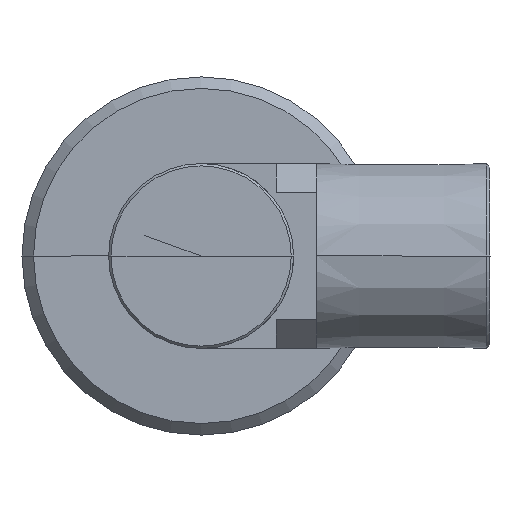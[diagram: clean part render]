
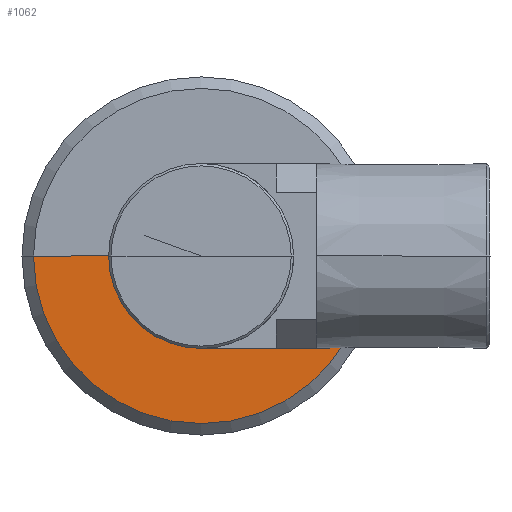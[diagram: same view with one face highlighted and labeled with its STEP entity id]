
A CAD part, left-side view. The second image highlights one B-rep face of the part: STEP entity #1062.
In plain terms, the highlighted conical face has half-angle 90 degrees and reference radius 14.5 mm.
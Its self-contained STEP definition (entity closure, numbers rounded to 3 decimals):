
#60 = EDGE_CURVE ( 'NONE', #824, #932, #1227, .T. ) ;
#74 = CARTESIAN_POINT ( 'NONE',  ( -24., 8., 0. ) ) ;
#77 = AXIS2_PLACEMENT_3D ( 'NONE', #909, #767, #1068 ) ;
#121 = DIRECTION ( 'NONE',  ( -1., 0., 0. ) ) ;
#251 = CARTESIAN_POINT ( 'NONE',  ( -24., 0., 0. ) ) ;
#255 = CARTESIAN_POINT ( 'NONE',  ( -24., -8., 0. ) ) ;
#323 = LINE ( 'NONE', #1620, #1606 ) ;
#409 = AXIS2_PLACEMENT_3D ( 'NONE', #1723, #855, #1865 ) ;
#490 = VECTOR ( 'NONE', #1882, 1000. ) ;
#512 = EDGE_LOOP ( 'NONE', ( #1697, #1621, #1846, #1548 ) ) ;
#521 = EDGE_CURVE ( 'NONE', #932, #871, #1746, .T. ) ;
#549 = DIRECTION ( 'NONE',  ( 0., -1., 0. ) ) ;
#767 = DIRECTION ( 'NONE',  ( -1., 0., 0. ) ) ;
#824 = VERTEX_POINT ( 'NONE', #74 ) ;
#855 = DIRECTION ( 'NONE',  ( -1., 0., 0. ) ) ;
#871 = VERTEX_POINT ( 'NONE', #1693 ) ;
#909 = CARTESIAN_POINT ( 'NONE',  ( -24., 0., 0. ) ) ;
#932 = VERTEX_POINT ( 'NONE', #255 ) ;
#963 = CARTESIAN_POINT ( 'NONE',  ( -24., 14.5, 0. ) ) ;
#1037 = DIRECTION ( 'NONE',  ( 0., 1., 0. ) ) ;
#1062 = ADVANCED_FACE ( 'NONE', ( #1334 ), #1195, .F. ) ;
#1068 = DIRECTION ( 'NONE',  ( 0., -1., 0. ) ) ;
#1142 = CARTESIAN_POINT ( 'NONE',  ( -24., -14.5, 0. ) ) ;
#1195 = CONICAL_SURFACE ( 'NONE', #1269, 14.5, 1.571 ) ;
#1227 = CIRCLE ( 'NONE', #77, 8. ) ;
#1269 = AXIS2_PLACEMENT_3D ( 'NONE', #251, #121, #549 ) ;
#1334 = FACE_OUTER_BOUND ( 'NONE', #512, .T. ) ;
#1348 = CIRCLE ( 'NONE', #409, 14.5 ) ;
#1383 = EDGE_CURVE ( 'NONE', #824, #1594, #323, .T. ) ;
#1548 = ORIENTED_EDGE ( 'NONE', *, *, #521, .F. ) ;
#1594 = VERTEX_POINT ( 'NONE', #963 ) ;
#1606 = VECTOR ( 'NONE', #1037, 1000. ) ;
#1620 = CARTESIAN_POINT ( 'NONE',  ( -24., 14.5, 0. ) ) ;
#1621 = ORIENTED_EDGE ( 'NONE', *, *, #1383, .T. ) ;
#1693 = CARTESIAN_POINT ( 'NONE',  ( -24., -14.5, 0. ) ) ;
#1697 = ORIENTED_EDGE ( 'NONE', *, *, #60, .F. ) ;
#1710 = EDGE_CURVE ( 'NONE', #1594, #871, #1348, .T. ) ;
#1723 = CARTESIAN_POINT ( 'NONE',  ( -24., 0., 0. ) ) ;
#1746 = LINE ( 'NONE', #1142, #490 ) ;
#1846 = ORIENTED_EDGE ( 'NONE', *, *, #1710, .T. ) ;
#1865 = DIRECTION ( 'NONE',  ( 0., -1., 0. ) ) ;
#1882 = DIRECTION ( 'NONE',  ( 0., -1., 0. ) ) ;
